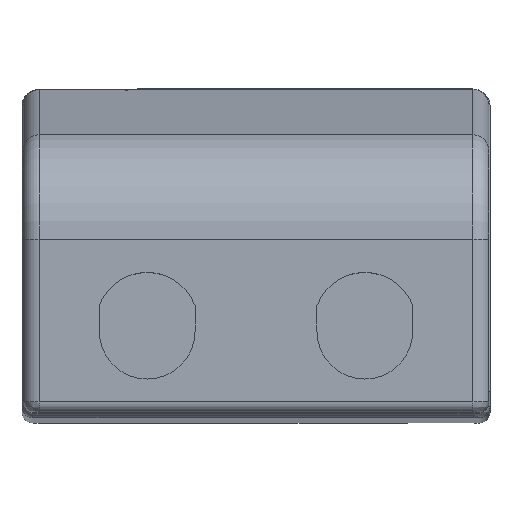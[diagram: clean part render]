
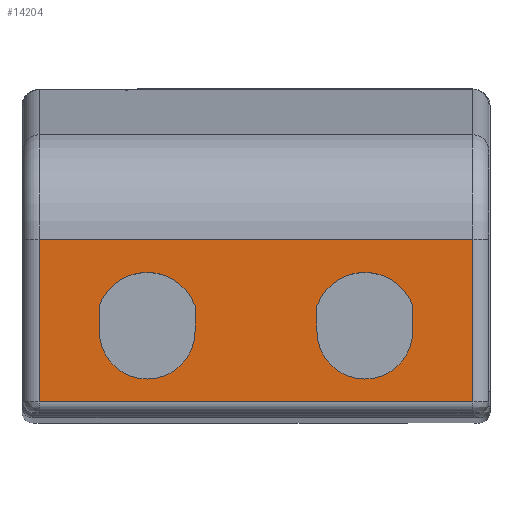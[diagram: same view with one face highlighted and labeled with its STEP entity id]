
A CAD part, top view. The second image highlights one B-rep face of the part: STEP entity #14204.
In plain terms, the highlighted planar face has unit normal (0, 0, 1).
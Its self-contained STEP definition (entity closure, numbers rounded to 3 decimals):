
#1486=DIRECTION('',(0.,-1.,0.));
#1487=VECTOR('',#1486,14.957);
#1488=CARTESIAN_POINT('',(-19.9,16.357,170.));
#1489=LINE('',#1488,#1487);
#1493=CARTESIAN_POINT('',(10.,8.6,170.));
#1494=DIRECTION('',(0.,0.,1.));
#1495=DIRECTION('',(0.936,0.352,0.));
#1496=AXIS2_PLACEMENT_3D('',#1493,#1494,#1495);
#1501=CARTESIAN_POINT('',(10.,7.9,170.));
#1502=DIRECTION('',(0.,0.,1.));
#1503=DIRECTION('',(-1.,0.,0.));
#1504=AXIS2_PLACEMENT_3D('',#1501,#1502,#1503);
#1509=CARTESIAN_POINT('',(-10.,8.6,170.));
#1510=DIRECTION('',(0.,0.,1.));
#1511=DIRECTION('',(0.936,0.352,0.));
#1512=AXIS2_PLACEMENT_3D('',#1509,#1510,#1511);
#1517=CARTESIAN_POINT('',(-10.,7.9,170.));
#1518=DIRECTION('',(0.,0.,1.));
#1519=DIRECTION('',(-1.,0.,0.));
#1520=AXIS2_PLACEMENT_3D('',#1517,#1518,#1519);
#1525=DIRECTION('',(1.,0.,0.));
#1526=VECTOR('',#1525,39.8);
#1527=CARTESIAN_POINT('',(-19.9,1.4,170.));
#1528=LINE('',#1527,#1526);
#1563=DIRECTION('',(0.,1.,0.));
#1564=VECTOR('',#1563,14.957);
#1565=CARTESIAN_POINT('',(19.9,1.4,170.));
#1566=LINE('',#1565,#1564);
#10603=DIRECTION('',(-1.,0.,0.));
#10604=VECTOR('',#10603,39.8);
#10605=CARTESIAN_POINT('',(19.9,16.357,170.));
#10606=LINE('',#10605,#10604);
#10631=DIRECTION('',(0.,-1.,0.));
#10632=VECTOR('',#10631,2.352);
#10633=CARTESIAN_POINT('',(14.4,10.252,170.));
#10634=LINE('',#10633,#10632);
#10652=DIRECTION('',(0.,1.,0.));
#10653=VECTOR('',#10652,2.352);
#10654=CARTESIAN_POINT('',(5.6,7.9,170.));
#10655=LINE('',#10654,#10653);
#10703=DIRECTION('',(0.,-1.,0.));
#10704=VECTOR('',#10703,2.352);
#10705=CARTESIAN_POINT('',(-5.6,10.252,170.));
#10706=LINE('',#10705,#10704);
#10724=DIRECTION('',(0.,1.,0.));
#10725=VECTOR('',#10724,2.352);
#10726=CARTESIAN_POINT('',(-14.4,7.9,170.));
#10727=LINE('',#10726,#10725);
#12109=CARTESIAN_POINT('',(-19.9,1.4,170.));
#12110=VERTEX_POINT('',#12109);
#12113=CARTESIAN_POINT('',(-19.9,16.357,170.));
#12114=VERTEX_POINT('',#12113);
#12184=CARTESIAN_POINT('',(19.9,1.4,170.));
#12185=VERTEX_POINT('',#12184);
#12186=CARTESIAN_POINT('',(19.9,16.357,170.));
#12187=VERTEX_POINT('',#12186);
#12188=CARTESIAN_POINT('',(14.4,10.252,170.));
#12189=CARTESIAN_POINT('',(5.6,10.252,170.));
#12190=VERTEX_POINT('',#12188);
#12191=VERTEX_POINT('',#12189);
#12192=CARTESIAN_POINT('',(5.6,7.9,170.));
#12193=VERTEX_POINT('',#12192);
#12194=CARTESIAN_POINT('',(14.4,7.9,170.));
#12195=VERTEX_POINT('',#12194);
#12196=CARTESIAN_POINT('',(-5.6,10.252,170.));
#12197=CARTESIAN_POINT('',(-14.4,10.252,170.));
#12198=VERTEX_POINT('',#12196);
#12199=VERTEX_POINT('',#12197);
#12200=CARTESIAN_POINT('',(-14.4,7.9,170.));
#12201=VERTEX_POINT('',#12200);
#12202=CARTESIAN_POINT('',(-5.6,7.9,170.));
#12203=VERTEX_POINT('',#12202);
#14170=CARTESIAN_POINT('',(-21.4,16.357,170.));
#14171=DIRECTION('',(0.,0.,1.));
#14172=DIRECTION('',(0.,-1.,0.));
#14173=AXIS2_PLACEMENT_3D('',#14170,#14171,#14172);
#14174=PLANE('',#14173);
#14176=ORIENTED_EDGE('',*,*,#14175,.F.);
#14177=ORIENTED_EDGE('',*,*,#14165,.F.);
#14179=ORIENTED_EDGE('',*,*,#14178,.F.);
#14181=ORIENTED_EDGE('',*,*,#14180,.F.);
#14182=EDGE_LOOP('',(#14176,#14177,#14179,#14181));
#14183=FACE_OUTER_BOUND('',#14182,.F.);
#14185=ORIENTED_EDGE('',*,*,#14184,.T.);
#14187=ORIENTED_EDGE('',*,*,#14186,.F.);
#14189=ORIENTED_EDGE('',*,*,#14188,.T.);
#14191=ORIENTED_EDGE('',*,*,#14190,.F.);
#14192=EDGE_LOOP('',(#14185,#14187,#14189,#14191));
#14193=FACE_BOUND('',#14192,.F.);
#14195=ORIENTED_EDGE('',*,*,#14194,.T.);
#14197=ORIENTED_EDGE('',*,*,#14196,.F.);
#14199=ORIENTED_EDGE('',*,*,#14198,.T.);
#14201=ORIENTED_EDGE('',*,*,#14200,.F.);
#14202=EDGE_LOOP('',(#14195,#14197,#14199,#14201));
#14203=FACE_BOUND('',#14202,.F.);
#1497=CIRCLE('',#1496,4.7);
#1505=CIRCLE('',#1504,4.4);
#1513=CIRCLE('',#1512,4.7);
#1521=CIRCLE('',#1520,4.4);
#14165=EDGE_CURVE('',#12114,#12110,#1489,.T.);
#14175=EDGE_CURVE('',#12110,#12185,#1528,.T.);
#14178=EDGE_CURVE('',#12187,#12114,#10606,.T.);
#14180=EDGE_CURVE('',#12185,#12187,#1566,.T.);
#14184=EDGE_CURVE('',#12190,#12191,#1497,.T.);
#14186=EDGE_CURVE('',#12193,#12191,#10655,.T.);
#14188=EDGE_CURVE('',#12193,#12195,#1505,.T.);
#14190=EDGE_CURVE('',#12190,#12195,#10634,.T.);
#14194=EDGE_CURVE('',#12198,#12199,#1513,.T.);
#14196=EDGE_CURVE('',#12201,#12199,#10727,.T.);
#14198=EDGE_CURVE('',#12201,#12203,#1521,.T.);
#14200=EDGE_CURVE('',#12198,#12203,#10706,.T.);
#14204=ADVANCED_FACE('',(#14183,#14193,#14203),#14174,.T.);
